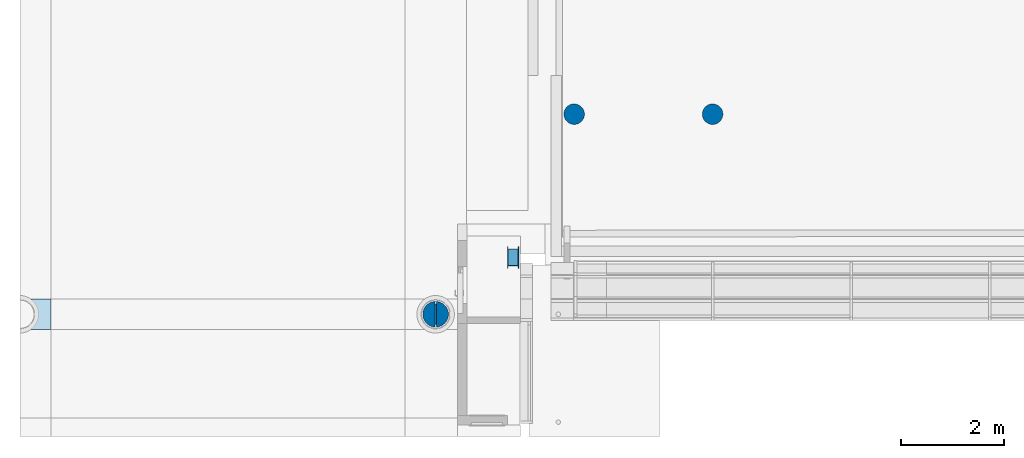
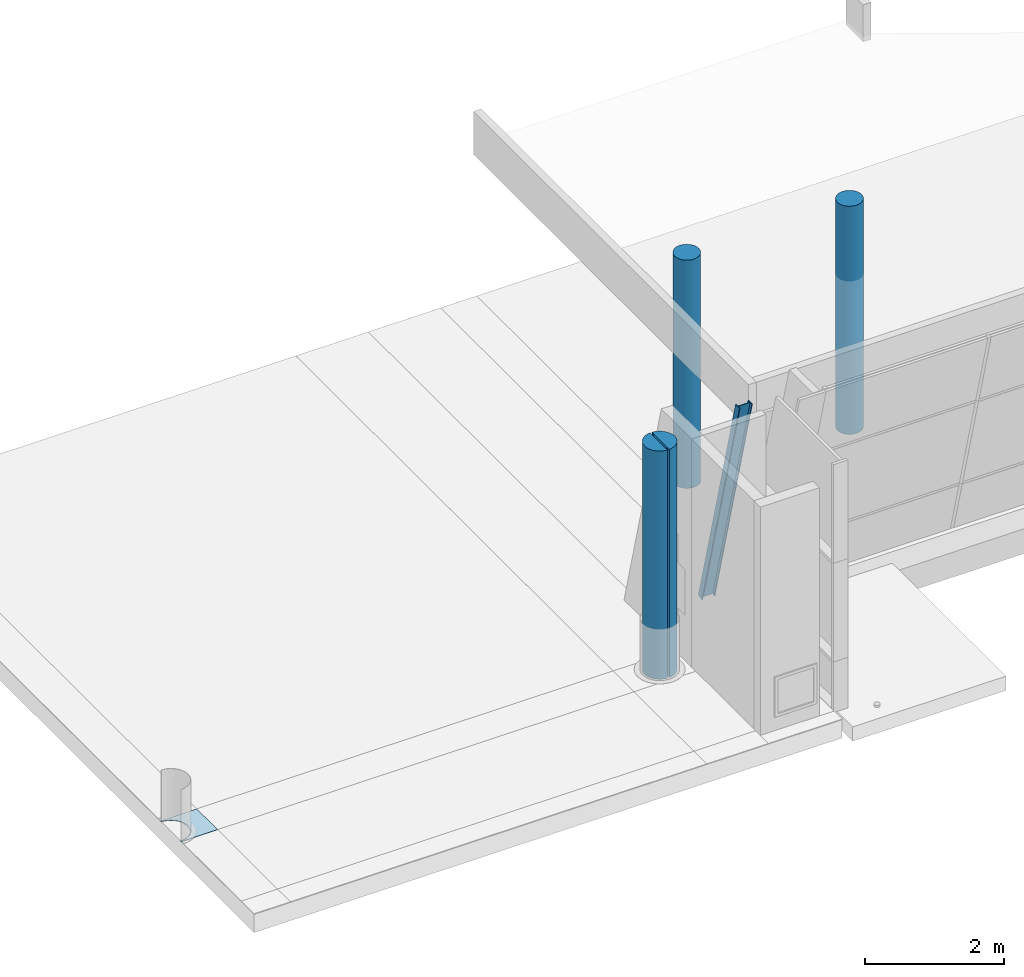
# One storey, part 5 of 10: 4 columns, 1 slab.
"""IFC2X3 building model written with IfcOpenShell, lengths in millimetres."""

from ifc_helpers import new_model, entity, si_unit, converted_unit, derived_unit, direction, frame, origin, origin_with_axes, place, context, subcontext, project, spatial, faceted_brep, material, layer, layer_set, type_object, element, save


model = new_model("IFC2X3")

# Units and contexts
model_context = context("Model", 3, precision=0.01, world=origin(), true_north=direction((6.12303176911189e-17, 1.0)))
plan_context = context("Plan", 3, precision=1e-05, world=origin_with_axes())
body_context = subcontext(model_context, "Body", "Model", "MODEL_VIEW")
axis_context = subcontext(model_context, "Axis", "Model", "GRAPH_VIEW")
ifc_project = project(units=[converted_unit("PLANEANGLEUNIT", "DEGREE", entity("IfcPositiveLengthMeasure", 0.0174532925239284), si_unit("PLANEANGLEUNIT", "RADIAN"), dimensions=[0, 0, 0, 0, 0, 0, 0]), si_unit("AREAUNIT", "SQUARE_METRE"), si_unit("LENGTHUNIT", "METRE", prefix="MILLI"), si_unit("MASSUNIT", "GRAM", prefix="KILO"), si_unit("POWERUNIT", "WATT"), si_unit("PRESSUREUNIT", "PASCAL"), si_unit("FORCEUNIT", "NEWTON", prefix="KILO"), si_unit("ELECTRICVOLTAGEUNIT", "VOLT"), si_unit("ELECTRICCURRENTUNIT", "AMPERE"), si_unit("THERMODYNAMICTEMPERATUREUNIT", "DEGREE_CELSIUS"), si_unit("TIMEUNIT", "SECOND"), si_unit("VOLUMEUNIT", "CUBIC_METRE"), derived_unit("LINEARVELOCITYUNIT", [(si_unit("LENGTHUNIT", "METRE"), 1), (si_unit("TIMEUNIT", "SECOND"), -1)]), derived_unit("VOLUMETRICFLOWRATEUNIT", [(si_unit("VOLUMEUNIT", "CUBIC_METRE"), 1), (si_unit("TIMEUNIT", "SECOND"), -1)]), derived_unit("THERMALTRANSMITTANCEUNIT", [(si_unit("POWERUNIT", "WATT"), 1), (si_unit("THERMODYNAMICTEMPERATUREUNIT", "KELVIN"), -1), (si_unit("AREAUNIT", "SQUARE_METRE"), -1)]), derived_unit("SOUNDPRESSUREUNIT", [(si_unit("PRESSUREUNIT", "PASCAL"), 1)])], contexts=[model_context, plan_context])

# Site, building, storey
site_placement = place(None, frame((2314154.5009392, 1029894.10887124, 0.0), z_axis=(0.0, 0.0, 1.0), x_axis=(1.0, 0.0, 0.0)))
site = spatial("IfcSite", under=ifc_project, at=site_placement, Name="Default", CompositionType="ELEMENT")
building_placement = place(site_placement, origin_with_axes())
building = spatial("IfcBuilding", under=site, at=building_placement, CompositionType="ELEMENT")
storey_placement = place(building_placement, frame((0.0, 0.0, 9320.0), z_axis=(0.0, 0.0, 1.0), x_axis=(1.0, 0.0, 0.0)))
storey = spatial("IfcBuildingStorey", under=building, at=storey_placement, Name="H01 Hovedetasje", CompositionType="ELEMENT", Elevation=9320.0)

# Columns
ifc_material_1 = material(Name="Værnes_Concrete column")
column_type_1 = type_object("IfcColumnType", Name="Værnes_Søyle med Krone_Syd:500D x 8210mm", PredefinedType="COLUMN", material=ifc_material_1)
column_1_placement = place(storey_placement, frame((101360.317375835, -39949.2076563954, -9320.0), z_axis=(0.0, 0.0, 1.0), x_axis=(0.0, -1.0, 0.0)))
element("IfcColumn", 1, at=column_1_placement, inside=storey, type_object=column_type_1, Name="Værnes_Søyle med Krone_Syd:500D x 8210mm", ObjectType="Værnes_Søyle med Krone_Syd:500D x 8210mm", context=body_context, shape_type="Brep", body=[
    faceted_brep([(240.549025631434, -68.0893990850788, 9320.0), (220.388404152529, -118.020978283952, 9320.0), (190.002292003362, -162.478087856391, 9320.0), (150.799686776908, -199.397729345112, 9320.0), (104.598762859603, -227.066287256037, 9320.0), (53.5435899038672, -244.198861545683, 9320.0), (0.0, -250.0, 9320.0), (-53.5435899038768, -244.198861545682, 9320.0), (-104.598762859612, -227.066287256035, 9320.0), (-150.799686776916, -199.39772934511, 9320.0), (-190.002292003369, -162.478087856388, 9320.0), (-220.388404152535, -118.020978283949, 9320.0), (-240.549025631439, -68.0893990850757, 9320.0), (-249.549594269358, -15.0, 9320.0), (-200.0, -15.0, 9320.0), (-200.0, 15.0, 9320.0), (-249.549594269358, 15.0, 9320.0), (-242.289548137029, 61.6098601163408, 9320.0), (-226.424323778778, 105.981251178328, 9320.0), (-202.514315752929, 146.587693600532, 9320.0), (-171.406904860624, 181.988112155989, 9320.0), (-134.20390132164, 210.924898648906, 9320.0), (-92.2240540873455, 232.367648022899, 9320.0), (-46.9612615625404, 245.549668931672, 9320.0), (0.0, 250.0, 9320.0), (46.9612615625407, 245.549668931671, 9320.0), (92.2240540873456, 232.367648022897, 9320.0), (134.203901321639, 210.924898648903, 9320.0), (171.406904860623, 181.988112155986, 9320.0), (202.514315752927, 146.587693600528, 9320.0), (226.424323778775, 105.981251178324, 9320.0), (242.289548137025, 61.6098601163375, 9320.0), (249.549594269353, 15.0, 9320.0), (200.0, 15.0, 9320.0), (200.0, -15.0, 9320.0), (249.549594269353, -15.0, 9320.0), (0.0, -250.000000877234, 13320.0), (53.5435892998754, -244.198863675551, 13320.0), (-53.5435899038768, -244.198861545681, 13320.0), (-104.598762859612, -227.066287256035, 13320.0), (-150.799686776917, -199.39772934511, 13320.0), (-190.002292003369, -162.478087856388, 13320.0), (-220.388404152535, -118.020978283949, 13320.0), (-240.549025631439, -68.0893990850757, 13320.0), (-249.549594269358, -15.0, 13320.0), (104.598764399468, -227.066284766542, 13320.0), (150.799687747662, -199.39773004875, 13320.0), (190.002287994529, -162.478089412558, 13320.0), (220.388402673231, -118.020977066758, 13320.0), (240.549029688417, -68.0893988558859, 13320.0), (249.549593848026, -14.9999998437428, 13320.0), (-46.9612606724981, 245.549671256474, 13320.0), (-92.2240560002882, 232.367647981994, 13320.0), (0.0, 250.000000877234, 13320.0), (46.9612615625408, 245.549668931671, 13320.0), (92.2240540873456, 232.367648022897, 13320.0), (134.203901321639, 210.924898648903, 13320.0), (171.406904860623, 181.988112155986, 13320.0), (202.514315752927, 146.587693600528, 13320.0), (226.424323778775, 105.981251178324, 13320.0), (242.289548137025, 61.6098601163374, 13320.0), (249.549594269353, 15.0, 13320.0), (-134.203900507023, 210.924898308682, 13320.0), (-171.406905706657, 181.988111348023, 13320.0), (-202.514313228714, 146.587692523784, 13320.0), (-226.424319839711, 105.981250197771, 13320.0000002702), (-242.28955047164, 61.6098606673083, 13320.0), (-249.549593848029, 14.9999998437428, 13320.0), (-200.0, -15.0, 13320.0), (-200.0, 15.0, 13320.0), (200.0, 15.0, 13320.0), (200.0, -15.0, 13320.0), (-226.424319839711, 105.981250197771, 13320.0)], [[[0, 1, 2, 3, 4, 5, 6, 7, 8, 9, 10, 11, 12, 13, 14, 15, 16, 17, 18, 19, 20, 21, 22, 23, 24, 25, 26, 27, 28, 29, 30, 31, 32, 33, 34, 35]], [[36, 37, 5, 6]], [[38, 36, 6, 7]], [[39, 38, 7, 8]], [[40, 39, 8, 9]], [[41, 40, 9, 10]], [[42, 41, 10, 11]], [[43, 42, 11, 12]], [[44, 43, 12, 13]], [[37, 45, 4, 5]], [[45, 46, 3, 4]], [[46, 47, 2, 3]], [[47, 48, 1, 2]], [[48, 49, 0, 1]], [[49, 50, 35, 0]], [[51, 52, 22, 23]], [[53, 51, 23, 24]], [[54, 53, 24, 25]], [[55, 54, 25, 26]], [[56, 55, 26, 27]], [[57, 56, 27, 28]], [[58, 57, 28, 29]], [[59, 58, 29, 30]], [[60, 59, 30, 31]], [[61, 60, 31, 32]], [[52, 62, 21, 22]], [[62, 63, 20, 21]], [[63, 64, 19, 20]], [[64, 65, 18, 19]], [[65, 66, 17, 18]], [[66, 67, 16, 17]], [[44, 68, 14, 13]], [[69, 68, 14, 15]], [[69, 67, 16, 15]], [[61, 70, 33, 32]], [[71, 70, 33, 34]], [[71, 50, 35, 34]], [[50, 49, 48, 47, 46, 45, 37, 36, 38, 39, 40, 41, 42, 43, 44]], [[67, 66, 72, 64, 63, 62, 52, 51, 53, 54, 55, 56, 57, 58, 59, 60, 61]]], orient=[[False], [False], [False], [False], [False], [False], [False], [False], [False], [False], [False], [False], [False], [False], [False], [False], [False], [False], [False], [False], [False], [False], [False], [False], [False], [False], [False], [False], [False], [False], [False], [False], [False], [False], [False], [False], [False], [False], [False]]),
])
ifc_material_2 = material(Name="Værnes_Stål")
column_type_2 = type_object("IfcColumnType", Name="Værnes I Beam Fasade Vert:Værnes I Beam Fasade Vert", PredefinedType="COLUMN", material=ifc_material_2)
column_2_placement = place(storey_placement, frame((0.0, 0.0, -9320.0), z_axis=(0.0, 0.0, 1.0), x_axis=(1.0, 0.0, 0.0)))
element("IfcColumn", 2, at=column_2_placement, inside=storey, type_object=column_type_2, Name="Værnes I Beam Fasade Vert:Værnes I Beam Fasade Vert", ObjectType="Værnes I Beam Fasade Vert:Værnes I Beam Fasade Vert", context=axis_context, shape_type="Brep", body=[
    faceted_brep([(102762.085595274, -39695.668142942, 13320.0), (102762.085595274, -39809.5485227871, 13320.0), (102762.085595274, -38733.9374835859, 9305.76495251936), (102762.085595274, -38627.6856426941, 9334.23504748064), (102775.085595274, -39809.5485227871, 13320.0), (102775.085595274, -38733.9374835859, 9305.76495251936), (102775.085595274, -39759.8552661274, 13320.0), (102775.085595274, -38687.5730439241, 9318.18826668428), (102969.085595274, -39759.8552661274, 13320.0), (102969.085595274, -38687.5730439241, 9318.18826668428), (102969.085595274, -39809.5485227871, 13320.0), (102969.085595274, -38733.9374835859, 9305.76495251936), (102982.085595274, -39809.5485227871, 13320.0), (102982.085595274, -38733.9374835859, 9305.76495251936), (102982.085595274, -39695.668142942, 13320.0), (102982.085595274, -38627.6856426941, 9334.23504748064), (102969.085595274, -39695.668142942, 13320.0), (102969.085595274, -38627.6856426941, 9334.23504748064), (102969.085595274, -39745.3613996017, 13320.0), (102969.085595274, -38674.050082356, 9321.81173331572), (102775.085595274, -39745.3613996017, 13320.0), (102775.085595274, -38674.050082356, 9321.81173331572), (102775.085595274, -39695.668142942, 13320.0), (102775.085595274, -38627.6856426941, 9334.23504748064)], [[[0, 1, 2, 3]], [[1, 4, 5, 2]], [[4, 6, 7, 5]], [[6, 8, 9, 7]], [[8, 10, 11, 9]], [[10, 12, 13, 11]], [[12, 14, 15, 13]], [[14, 16, 17, 15]], [[16, 18, 19, 17]], [[18, 20, 21, 19]], [[20, 22, 23, 21]], [[22, 0, 3, 23]], [[3, 2, 5, 7, 9, 11, 13, 15, 17, 19, 21, 23]], [[22, 20, 18, 16, 14, 12, 10, 8, 6, 4, 1, 0]]], orient=[[False], [False], [False], [False], [False], [False], [False], [False], [False], [False], [False], [False], [False], [False]]),
])
ifc_material_3 = material(Name="NO_Betong")
column_type_3 = type_object("IfcColumnType", Name="V_Betong+Stål Arms:400D x 8300mm +65deg/74deg", PredefinedType="COLUMN", material=ifc_material_3)
column_3_placement = place(storey_placement, frame((106758.259337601, -36049.2714097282, -9320.0), z_axis=(0.0, 0.0, 1.0), x_axis=(0.0, -1.0, 0.0)))
element("IfcColumn", 3, at=column_3_placement, inside=storey, type_object=column_type_3, Name="V_Betong+Stål Arms:400D x 8300mm +65deg/74deg", ObjectType="V_Betong+Stål Arms:400D x 8300mm +65deg/74deg", context=body_context, shape_type="Brep", body=[
    faceted_brep([(196.961550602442, -34.7296355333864, 13320.0), (200.0, -3.23108914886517e-13, 13320.0), (200.0, -3.23108914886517e-13, 9320.0), (196.961550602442, -34.7296355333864, 9320.0), (196.961550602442, 34.7296355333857, 13320.0), (196.961550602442, 34.7296355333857, 9320.0), (187.938524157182, 68.4040286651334, 13320.0), (187.938524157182, 68.4040286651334, 9320.0), (173.205080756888, 99.9999999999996, 13320.0), (173.205080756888, 99.9999999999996, 9320.0), (153.208888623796, 128.557521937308, 13320.0), (153.208888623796, 128.557521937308, 9320.0), (128.557521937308, 153.208888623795, 13320.0), (128.557521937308, 153.208888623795, 9320.0), (100.0, 173.205080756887, 13320.0), (100.0, 173.205080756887, 9320.0), (68.4040286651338, 187.938524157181, 13320.0), (68.4040286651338, 187.938524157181, 9320.0), (34.7296355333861, 196.961550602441, 13320.0), (34.7296355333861, 196.961550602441, 9320.0), (1.22464679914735e-14, 200.0, 13320.0), (1.22464679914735e-14, 200.0, 9320.0), (-34.7296355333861, 196.961550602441, 13320.0), (-34.7296355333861, 196.961550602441, 9320.0), (-68.4040286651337, 187.938524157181, 13320.0), (-68.4040286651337, 187.938524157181, 9320.0), (-99.9999999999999, 173.205080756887, 13320.0), (-99.9999999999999, 173.205080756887, 9320.0), (-128.557521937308, 153.208888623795, 13320.0), (-128.557521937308, 153.208888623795, 9320.0), (-153.208888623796, 128.557521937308, 13320.0), (-153.208888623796, 128.557521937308, 9320.0), (-173.205080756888, 99.9999999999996, 13320.0), (-173.205080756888, 99.9999999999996, 9320.0), (-187.938524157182, 68.4040286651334, 13320.0), (-187.938524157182, 68.4040286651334, 9320.0), (-196.961550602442, 34.7296355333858, 13320.0), (-196.961550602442, 34.7296355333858, 9320.0), (-200.0, -2.9861597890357e-13, 13320.0), (-200.0, -2.9861597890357e-13, 9320.0), (-196.961550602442, -34.7296355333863, 13320.0), (-196.961550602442, -34.7296355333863, 9320.0), (-187.938524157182, -68.404028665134, 13320.0), (-187.938524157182, -68.404028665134, 9320.0), (-173.205080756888, -100.0, 13320.0), (-173.205080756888, -100.0, 9320.0), (-153.208888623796, -128.557521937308, 13320.0), (-153.208888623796, -128.557521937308, 9320.0), (-128.557521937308, -153.208888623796, 13320.0), (-128.557521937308, -153.208888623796, 9320.0), (-100.0, -173.205080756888, 13320.0), (-100.0, -173.205080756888, 9320.0), (-68.4040286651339, -187.938524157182, 13320.0), (-68.4040286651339, -187.938524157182, 9320.0), (-34.7296355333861, -196.961550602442, 13320.0), (-34.7296355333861, -196.961550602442, 9320.0), (-3.67394039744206e-14, -200.0, 13320.0), (-3.67394039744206e-14, -200.0, 9320.0), (34.729635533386, -196.961550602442, 13320.0), (34.729635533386, -196.961550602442, 9320.0), (68.4040286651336, -187.938524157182, 13320.0), (68.4040286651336, -187.938524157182, 9320.0), (100.0, -173.205080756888, 13320.0), (100.0, -173.205080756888, 9320.0), (128.557521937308, -153.208888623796, 13320.0), (128.557521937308, -153.208888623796, 9320.0), (153.208888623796, -128.557521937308, 13320.0), (153.208888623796, -128.557521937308, 9320.0), (173.205080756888, -100.0, 13320.0), (173.205080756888, -100.0, 9320.0), (187.938524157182, -68.4040286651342, 13320.0), (187.938524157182, -68.4040286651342, 9320.0)], [[[0, 1, 2, 3]], [[1, 4, 5, 2]], [[4, 6, 7, 5]], [[6, 8, 9, 7]], [[8, 10, 11, 9]], [[10, 12, 13, 11]], [[12, 14, 15, 13]], [[14, 16, 17, 15]], [[16, 18, 19, 17]], [[18, 20, 21, 19]], [[20, 22, 23, 21]], [[22, 24, 25, 23]], [[24, 26, 27, 25]], [[26, 28, 29, 27]], [[28, 30, 31, 29]], [[30, 32, 33, 31]], [[32, 34, 35, 33]], [[34, 36, 37, 35]], [[36, 38, 39, 37]], [[38, 40, 41, 39]], [[40, 42, 43, 41]], [[42, 44, 45, 43]], [[44, 46, 47, 45]], [[46, 48, 49, 47]], [[48, 50, 51, 49]], [[50, 52, 53, 51]], [[52, 54, 55, 53]], [[54, 56, 57, 55]], [[56, 58, 59, 57]], [[58, 60, 61, 59]], [[60, 62, 63, 61]], [[62, 64, 65, 63]], [[64, 66, 67, 65]], [[66, 68, 69, 67]], [[68, 70, 71, 69]], [[70, 0, 3, 71]], [[3, 2, 5, 7, 9, 11, 13, 15, 17, 19, 21, 23, 25, 27, 29, 31, 33, 35, 37, 39, 41, 43, 45, 47, 49, 51, 53, 55, 57, 59, 61, 63, 65, 67, 69, 71]], [[70, 68, 66, 64, 62, 60, 58, 56, 54, 52, 50, 48, 46, 44, 42, 40, 38, 36, 34, 32, 30, 28, 26, 24, 22, 20, 18, 16, 14, 12, 10, 8, 6, 4, 1, 0]]], orient=[[False], [False], [False], [False], [False], [False], [False], [False], [False], [False], [False], [False], [False], [False], [False], [False], [False], [False], [False], [False], [False], [False], [False], [False], [False], [False], [False], [False], [False], [False], [False], [False], [False], [False], [False], [False], [False], [False]]),
])
column_4_placement = place(storey_placement, frame((104060.33394735, -36049.2714097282, -9320.0), z_axis=(0.0, 0.0, 1.0), x_axis=(0.0, -1.0, 0.0)))
element("IfcColumn", 4, at=column_4_placement, inside=storey, type_object=column_type_3, Name="V_Betong+Stål Arms:400D x 8300mm +65deg/74deg", ObjectType="V_Betong+Stål Arms:400D x 8300mm +65deg/74deg", context=body_context, shape_type="Brep", body=[
    faceted_brep([(196.961550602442, -34.7296355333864, 13320.0), (200.0, -3.23108914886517e-13, 13320.0), (200.0, -3.23108914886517e-13, 9320.0), (196.961550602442, -34.7296355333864, 9320.0), (196.961550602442, 34.7296355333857, 13320.0), (196.961550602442, 34.7296355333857, 9320.0), (187.938524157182, 68.4040286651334, 13320.0), (187.938524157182, 68.4040286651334, 9320.0), (173.205080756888, 99.9999999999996, 13320.0), (173.205080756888, 99.9999999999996, 9320.0), (153.208888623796, 128.557521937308, 13320.0), (153.208888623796, 128.557521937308, 9320.0), (128.557521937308, 153.208888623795, 13320.0), (128.557521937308, 153.208888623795, 9320.0), (100.0, 173.205080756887, 13320.0), (100.0, 173.205080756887, 9320.0), (68.4040286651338, 187.938524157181, 13320.0), (68.4040286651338, 187.938524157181, 9320.0), (34.7296355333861, 196.961550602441, 13320.0), (34.7296355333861, 196.961550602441, 9320.0), (1.22464679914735e-14, 200.0, 13320.0), (1.22464679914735e-14, 200.0, 9320.0), (-34.7296355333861, 196.961550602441, 13320.0), (-34.7296355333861, 196.961550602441, 9320.0), (-68.4040286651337, 187.938524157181, 13320.0), (-68.4040286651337, 187.938524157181, 9320.0), (-99.9999999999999, 173.205080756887, 13320.0), (-99.9999999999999, 173.205080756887, 9320.0), (-128.557521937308, 153.208888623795, 13320.0), (-128.557521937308, 153.208888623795, 9320.0), (-153.208888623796, 128.557521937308, 13320.0), (-153.208888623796, 128.557521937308, 9320.0), (-173.205080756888, 99.9999999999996, 13320.0), (-173.205080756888, 99.9999999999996, 9320.0), (-187.938524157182, 68.4040286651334, 13320.0), (-187.938524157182, 68.4040286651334, 9320.0), (-196.961550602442, 34.7296355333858, 13320.0), (-196.961550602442, 34.7296355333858, 9320.0), (-200.0, -2.9861597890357e-13, 13320.0), (-200.0, -2.9861597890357e-13, 9320.0), (-196.961550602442, -34.7296355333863, 13320.0), (-196.961550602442, -34.7296355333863, 9320.0), (-187.938524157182, -68.404028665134, 13320.0), (-187.938524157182, -68.404028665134, 9320.0), (-173.205080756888, -100.0, 13320.0), (-173.205080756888, -100.0, 9320.0), (-153.208888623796, -128.557521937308, 13320.0), (-153.208888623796, -128.557521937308, 9320.0), (-128.557521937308, -153.208888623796, 13320.0), (-128.557521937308, -153.208888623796, 9320.0), (-100.0, -173.205080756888, 13320.0), (-100.0, -173.205080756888, 9320.0), (-68.4040286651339, -187.938524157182, 13320.0), (-68.4040286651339, -187.938524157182, 9320.0), (-34.7296355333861, -196.961550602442, 13320.0), (-34.7296355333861, -196.961550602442, 9320.0), (-3.67394039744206e-14, -200.0, 13320.0), (-3.67394039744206e-14, -200.0, 9320.0), (34.729635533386, -196.961550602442, 13320.0), (34.729635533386, -196.961550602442, 9320.0), (68.4040286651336, -187.938524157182, 13320.0), (68.4040286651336, -187.938524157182, 9320.0), (100.0, -173.205080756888, 13320.0), (100.0, -173.205080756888, 9320.0), (128.557521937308, -153.208888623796, 13320.0), (128.557521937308, -153.208888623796, 9320.0), (153.208888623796, -128.557521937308, 13320.0), (153.208888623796, -128.557521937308, 9320.0), (173.205080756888, -100.0, 13320.0), (173.205080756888, -100.0, 9320.0), (187.938524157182, -68.4040286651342, 13320.0), (187.938524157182, -68.4040286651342, 9320.0)], [[[0, 1, 2, 3]], [[1, 4, 5, 2]], [[4, 6, 7, 5]], [[6, 8, 9, 7]], [[8, 10, 11, 9]], [[10, 12, 13, 11]], [[12, 14, 15, 13]], [[14, 16, 17, 15]], [[16, 18, 19, 17]], [[18, 20, 21, 19]], [[20, 22, 23, 21]], [[22, 24, 25, 23]], [[24, 26, 27, 25]], [[26, 28, 29, 27]], [[28, 30, 31, 29]], [[30, 32, 33, 31]], [[32, 34, 35, 33]], [[34, 36, 37, 35]], [[36, 38, 39, 37]], [[38, 40, 41, 39]], [[40, 42, 43, 41]], [[42, 44, 45, 43]], [[44, 46, 47, 45]], [[46, 48, 49, 47]], [[48, 50, 51, 49]], [[50, 52, 53, 51]], [[52, 54, 55, 53]], [[54, 56, 57, 55]], [[56, 58, 59, 57]], [[58, 60, 61, 59]], [[60, 62, 63, 61]], [[62, 64, 65, 63]], [[64, 66, 67, 65]], [[66, 68, 69, 67]], [[68, 70, 71, 69]], [[70, 0, 3, 71]], [[3, 2, 5, 7, 9, 11, 13, 15, 17, 19, 21, 23, 25, 27, 29, 31, 33, 35, 37, 39, 41, 43, 45, 47, 49, 51, 53, 55, 57, 59, 61, 63, 65, 67, 69, 71]], [[70, 68, 66, 64, 62, 60, 58, 56, 54, 52, 50, 48, 46, 44, 42, 40, 38, 36, 34, 32, 30, 28, 26, 24, 22, 20, 18, 16, 14, 12, 10, 8, 6, 4, 1, 0]]], orient=[[False], [False], [False], [False], [False], [False], [False], [False], [False], [False], [False], [False], [False], [False], [False], [False], [False], [False], [False], [False], [False], [False], [False], [False], [False], [False], [False], [False], [False], [False], [False], [False], [False], [False], [False], [False], [False], [False]]),
])

# Slab
ifc_material_4 = material(Name="Værnes_Flis 02 Polert")
ifc_layer_1 = layer(ifc_material_4, 10.0)
ifc_material_5 = material(Name="Værnes_Mørtel")
ifc_layer_2 = layer(ifc_material_5, 2.0)
ifc_layer_set = layer_set([ifc_layer_1, ifc_layer_2], Name="Floor:VÆRNES - GULV 02 - POLERT FLIS")
slab_type = type_object("IfcSlabType", Name="Floor:VÆRNES - GULV 02 - POLERT FLIS", PredefinedType="FLOOR", material=ifc_layer_set)
slab_placement = place(storey_placement, frame((92660.3339473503, -40249.2714097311, -12.0), z_axis=(0.0, 0.0, 1.0), x_axis=(1.0, 0.0, 0.0)))
element("IfcSlab", 5, at=slab_placement, inside=storey, type_object=slab_type, Name="Floor:VÆRNES - GULV 02 - POLERT FLIS", ObjectType="Floor:VÆRNES - GULV 02 - POLERT FLIS", PredefinedType="FLOOR", context=body_context, shape_type="Brep", body=[
    faceted_brep([(600.000000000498, -5.45696821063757e-12, -5.20472553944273e-13), (600.000000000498, -5.45696821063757e-12, 12.0), (1199.99999999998, -5.45696821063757e-12, 12.0), (1199.99999999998, -5.45696821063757e-12, -5.20472553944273e-13), (600.000000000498, 600.000000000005, 12.0), (600.000000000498, 600.000000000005, -5.20472553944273e-13), (1199.99999999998, 600.000000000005, -5.20472553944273e-13), (1199.99999999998, 600.000000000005, 12.0), (600.0, 25.0637533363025, 12.0), (647.753248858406, 29.2416212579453, 12.0), (694.055539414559, 41.6482826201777, 12.0), (737.5, 61.9067672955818, 12.0), (776.766592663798, 89.4015314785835, 12.0), (810.662221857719, 123.297160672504, 12.0), (838.156986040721, 162.563753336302, 12.0), (858.415470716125, 206.008213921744, 12.0), (870.822132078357, 252.310504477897, 12.0), (875.0, 300.063753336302, 12.0), (870.822132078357, 347.817002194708, 12.0), (858.415470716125, 394.119292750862, 12.0), (838.156986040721, 437.563753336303, 12.0), (810.662221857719, 476.830346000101, 12.0), (776.766592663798, 510.725975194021, 12.0), (737.5, 538.220739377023, 12.0), (694.055539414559, 558.479224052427, 12.0), (647.753248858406, 570.88588541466, 12.0), (600.0, 575.063753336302, 12.0), (600.0, 575.063753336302, 0.0), (647.753248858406, 570.88588541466, 0.0), (694.055539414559, 558.479224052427, 0.0), (737.5, 538.220739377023, 0.0), (776.766592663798, 510.725975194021, 0.0), (810.662221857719, 476.830346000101, 0.0), (838.156986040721, 437.563753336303, 0.0), (858.415470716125, 394.119292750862, 0.0), (870.822132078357, 347.817002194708, 0.0), (875.0, 300.063753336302, 0.0), (870.822132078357, 252.310504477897, 0.0), (858.415470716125, 206.008213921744, 0.0), (838.156986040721, 162.563753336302, 0.0), (810.662221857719, 123.297160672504, 0.0), (776.766592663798, 89.4015314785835, 0.0), (737.5, 61.9067672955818, 0.0), (694.055539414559, 41.6482826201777, 0.0), (647.753248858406, 29.2416212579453, 0.0), (600.0, 25.0637533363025, 0.0)], [[[0, 1, 2, 3]], [[4, 5, 6, 7]], [[7, 6, 3, 2]], [[1, 8, 9, 10, 11, 12, 13, 14, 15, 16, 17, 18, 19, 20, 21, 22, 23, 24, 25, 26, 4, 7, 2]], [[5, 27, 28, 29, 30, 31, 32, 33, 34, 35, 36, 37, 38, 39, 40, 41, 42, 43, 44, 45, 0, 3, 6]], [[17, 36, 35, 18]], [[16, 37, 36, 17]], [[15, 38, 37, 16]], [[14, 39, 38, 15]], [[13, 40, 39, 14]], [[12, 41, 40, 13]], [[11, 42, 41, 12]], [[10, 43, 42, 11]], [[9, 44, 43, 10]], [[8, 45, 44, 9]], [[25, 28, 27, 26]], [[24, 29, 28, 25]], [[23, 30, 29, 24]], [[22, 31, 30, 23]], [[21, 32, 31, 22]], [[20, 33, 32, 21]], [[19, 34, 33, 20]], [[18, 35, 34, 19]], [[45, 8, 1, 0]], [[26, 27, 5, 4]]], orient=[[False], [False], [False], [False], [False], [False], [False], [False], [False], [False], [False], [False], [False], [False], [False], [False], [False], [False], [False], [False], [False], [False], [False], [False], [False]]),
])

save(model, "model.ifc")
